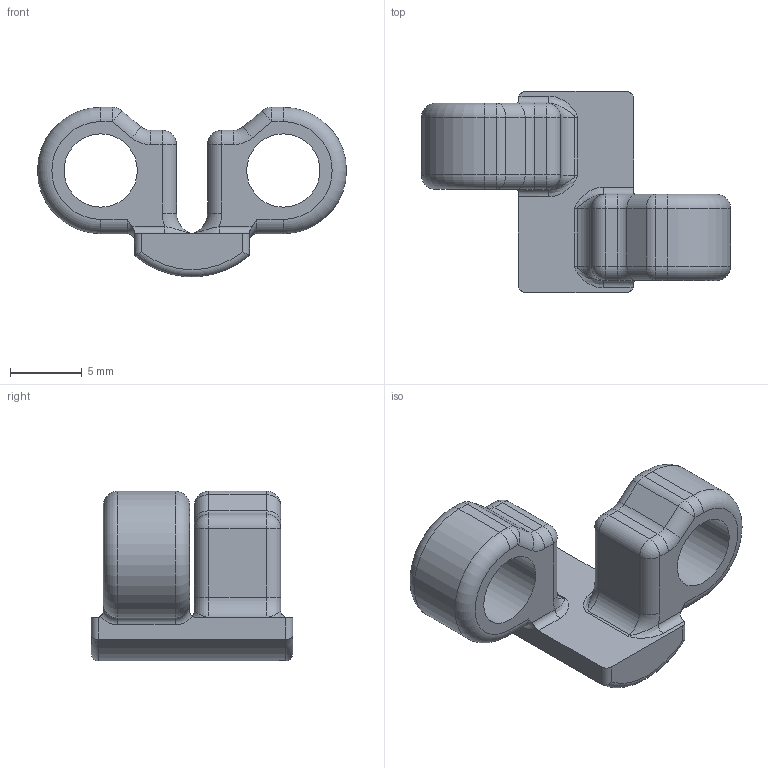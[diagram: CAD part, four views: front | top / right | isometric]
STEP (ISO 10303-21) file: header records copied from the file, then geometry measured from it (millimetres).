
FILE_DESCRIPTION((''),'2;1');
FILE_NAME('R3','2010-08-13T',('mth'),(''),'PRO/ENGINEER BY PARAMETRIC TECHNOLOGY CORPORATION, 2010100','PRO/ENGINEER BY PARAMETRIC TECHNOLOGY CORPORATION, 2010100','');
FILE_SCHEMA(('AUTOMOTIVE_DESIGN { 1 0 10303 214 1 1 1 1 }'));
Length unit declared in the file: millimetre
Products named in the file (1): R3
Bounding box: 21.5 x 14 x 11.79 mm (x, y, z)
Volume: 877.8 mm3; surface area: 958.6 mm2
Topology: 1 solids, 1 shells, 96 faces, 222 edges, 128 vertices
Faces by surface type: cylinder 47, plane 19, torus 18, sphere 8, bspline 4
Entity records: 4114 total; most frequent: CARTESIAN_POINT 930, DIRECTION 492, ORIENTED_EDGE 444, PRESENTATION_STYLE_ASSIGNMENT 223, STYLED_ITEM 223, CURVE_STYLE 222, EDGE_CURVE 222, AXIS2_PLACEMENT_3D 200
